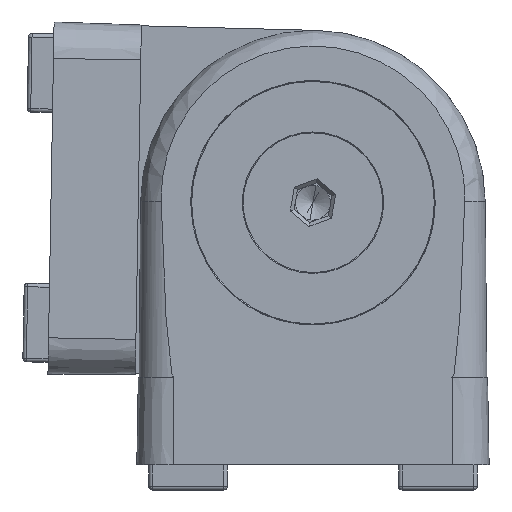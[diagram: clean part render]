
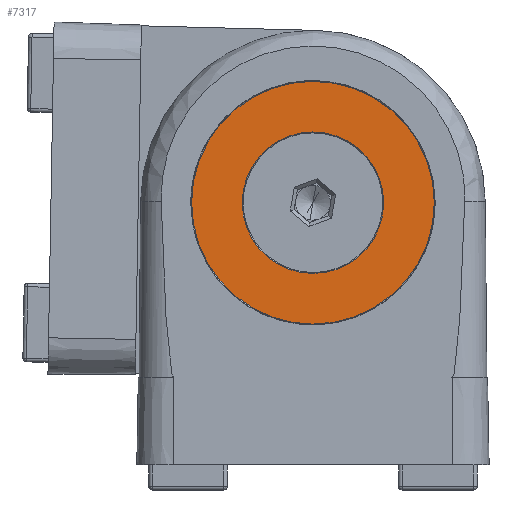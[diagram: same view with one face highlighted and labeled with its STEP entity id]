
A CAD part, front view. The second image highlights one B-rep face of the part: STEP entity #7317.
In plain terms, the highlighted planar face has unit normal (0, -1, 0) as drawn and (0, 0, -1) by its records, which use the part's own axes.
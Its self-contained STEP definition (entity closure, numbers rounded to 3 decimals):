
#127 = DIRECTION ( 'NONE',  ( 0., 0., 1. ) ) ;
#711 = DIRECTION ( 'NONE',  ( 0., 0., 1. ) ) ;
#727 = DIRECTION ( 'NONE',  ( -1., 0., 0. ) ) ;
#975 = CIRCLE ( 'NONE', #8721, 6.95 ) ;
#1191 = CARTESIAN_POINT ( 'NONE',  ( 6.95, 0., -9.733 ) ) ;
#1194 = VERTEX_POINT ( 'NONE', #1191 ) ;
#1789 = DIRECTION ( 'NONE',  ( -1., 0., 0. ) ) ;
#1895 = ORIENTED_EDGE ( 'NONE', *, *, #2112, .F. ) ;
#2050 = EDGE_LOOP ( 'NONE', ( #9543, #8463 ) ) ;
#2112 = EDGE_CURVE ( 'NONE', #1194, #4596, #4357, .T. ) ;
#3079 = CARTESIAN_POINT ( 'NONE',  ( 0., 0., -9.733 ) ) ;
#3396 = DIRECTION ( 'NONE',  ( 0., 0., 1. ) ) ;
#4254 = AXIS2_PLACEMENT_3D ( 'NONE', #13324, #7065, #1789 ) ;
#4357 = CIRCLE ( 'NONE', #6336, 6.95 ) ;
#4596 = VERTEX_POINT ( 'NONE', #11608 ) ;
#5101 = CARTESIAN_POINT ( 'NONE',  ( -4.05, 0., -9.733 ) ) ;
#5142 = AXIS2_PLACEMENT_3D ( 'NONE', #12702, #127, #12762 ) ;
#5911 = CARTESIAN_POINT ( 'NONE',  ( 0., 0., -9.733 ) ) ;
#6336 = AXIS2_PLACEMENT_3D ( 'NONE', #8052, #711, #13406 ) ;
#7065 = DIRECTION ( 'NONE',  ( 0., 0., -1. ) ) ;
#7317 = ADVANCED_FACE ( 'NONE', ( #8114, #13395 ), #12357, .T. ) ;
#7397 = EDGE_CURVE ( 'NONE', #13181, #13152, #11121, .T. ) ;
#7996 = DIRECTION ( 'NONE',  ( 0., 0., 1. ) ) ;
#8052 = CARTESIAN_POINT ( 'NONE',  ( 0., 0., -9.733 ) ) ;
#8104 = EDGE_LOOP ( 'NONE', ( #11986, #1895 ) ) ;
#8114 = FACE_BOUND ( 'NONE', #2050, .T. ) ;
#8463 = ORIENTED_EDGE ( 'NONE', *, *, #9375, .T. ) ;
#8721 = AXIS2_PLACEMENT_3D ( 'NONE', #5911, #7996, #727 ) ;
#9169 = AXIS2_PLACEMENT_3D ( 'NONE', #3079, #3396, #13551 ) ;
#9265 = EDGE_CURVE ( 'NONE', #4596, #1194, #975, .T. ) ;
#9375 = EDGE_CURVE ( 'NONE', #13152, #13181, #10939, .T. ) ;
#9543 = ORIENTED_EDGE ( 'NONE', *, *, #7397, .T. ) ;
#10939 = CIRCLE ( 'NONE', #9169, 4.05 ) ;
#11121 = CIRCLE ( 'NONE', #5142, 4.05 ) ;
#11406 = CARTESIAN_POINT ( 'NONE',  ( 4.05, 0., -9.733 ) ) ;
#11608 = CARTESIAN_POINT ( 'NONE',  ( -6.95, 0., -9.733 ) ) ;
#11986 = ORIENTED_EDGE ( 'NONE', *, *, #9265, .F. ) ;
#12357 = PLANE ( 'NONE',  #4254 ) ;
#12702 = CARTESIAN_POINT ( 'NONE',  ( 0., 0., -9.733 ) ) ;
#12762 = DIRECTION ( 'NONE',  ( -1., 0., 0. ) ) ;
#13152 = VERTEX_POINT ( 'NONE', #11406 ) ;
#13181 = VERTEX_POINT ( 'NONE', #5101 ) ;
#13324 = CARTESIAN_POINT ( 'NONE',  ( 0., 4.05, -9.733 ) ) ;
#13395 = FACE_OUTER_BOUND ( 'NONE', #8104, .T. ) ;
#13406 = DIRECTION ( 'NONE',  ( -1., 0., 0. ) ) ;
#13551 = DIRECTION ( 'NONE',  ( -1., 0., 0. ) ) ;
